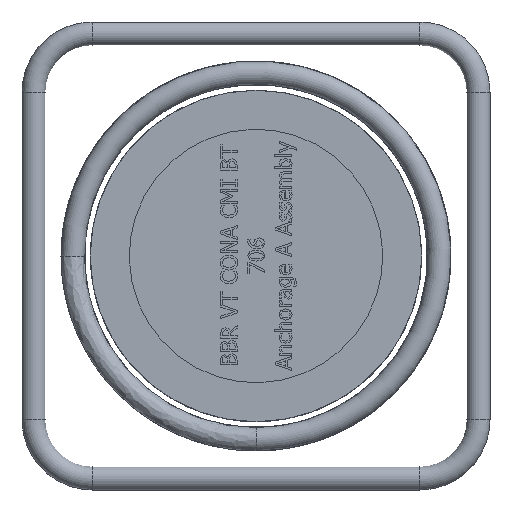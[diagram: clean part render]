
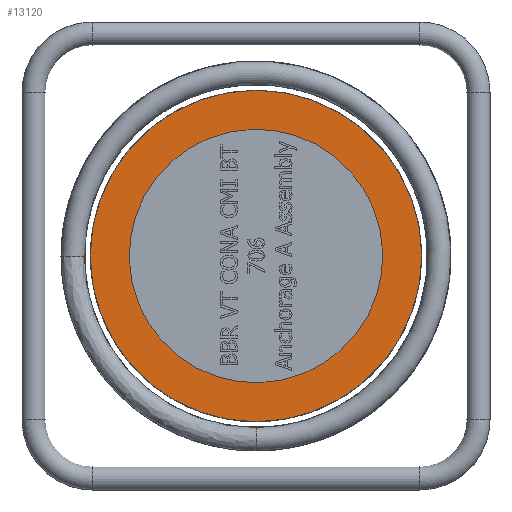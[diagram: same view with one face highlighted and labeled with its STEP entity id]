
A CAD part, left-side view. The second image highlights one B-rep face of the part: STEP entity #13120.
In plain terms, the highlighted planar face has unit normal (-1, 0, 0).
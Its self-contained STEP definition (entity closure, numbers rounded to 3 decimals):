
#135=CIRCLE('',#13579,65.);
#138=CIRCLE('',#13584,85.);
#348=FACE_BOUND('',#2670,.T.);
#1890=FACE_OUTER_BOUND('',#2669,.T.);
#2669=EDGE_LOOP('',(#11041));
#2670=EDGE_LOOP('',(#11042));
#5982=VERTEX_POINT('',#22756);
#5985=VERTEX_POINT('',#22764);
#7696=EDGE_CURVE('',#5982,#5982,#135,.T.);
#7699=EDGE_CURVE('',#5985,#5985,#138,.T.);
#11041=ORIENTED_EDGE('',*,*,#7699,.T.);
#11042=ORIENTED_EDGE('',*,*,#7696,.T.);
#11805=PLANE('',#13583);
#13120=ADVANCED_FACE('',(#1890,#348),#11805,.T.);
#13579=AXIS2_PLACEMENT_3D('',#22757,#15484,#15485);
#13583=AXIS2_PLACEMENT_3D('',#22763,#15492,#15493);
#13584=AXIS2_PLACEMENT_3D('',#22765,#15494,#15495);
#15484=DIRECTION('center_axis',(1.,0.,0.));
#15485=DIRECTION('ref_axis',(0.,0.999,-0.038));
#15492=DIRECTION('center_axis',(-1.,0.,0.));
#15493=DIRECTION('ref_axis',(0.,1.,0.));
#15494=DIRECTION('center_axis',(-1.,0.,0.));
#15495=DIRECTION('ref_axis',(0.,0.,
1.));
#22756=CARTESIAN_POINT('',(50.,2.481,64.953));
#22757=CARTESIAN_POINT('Origin',(50.,0.,0.));
#22763=CARTESIAN_POINT('Origin',(50.,0.,
66.));
#22764=CARTESIAN_POINT('',(50.,0.,85.));
#22765=CARTESIAN_POINT('Origin',(50.,0.,
0.));
